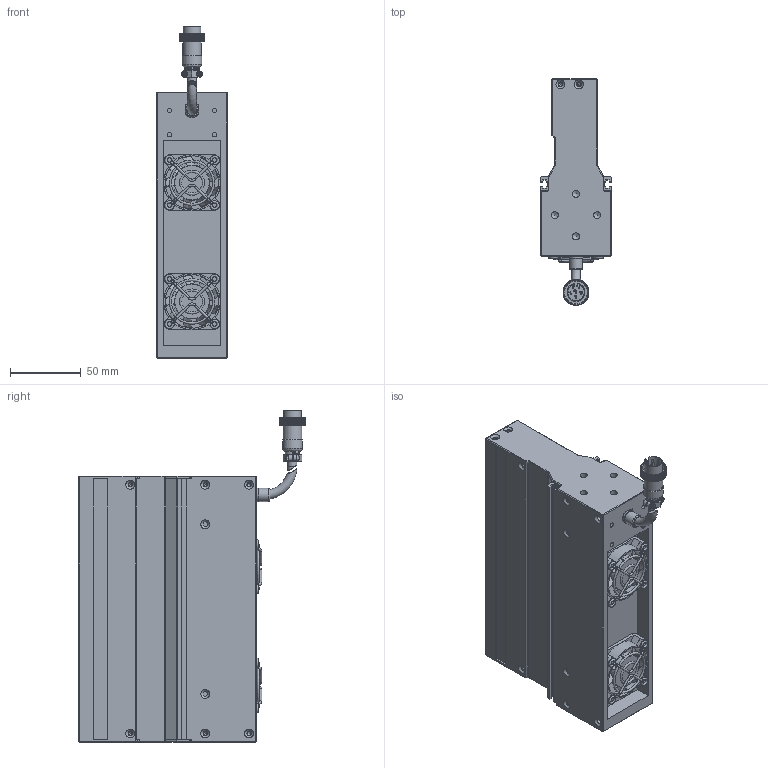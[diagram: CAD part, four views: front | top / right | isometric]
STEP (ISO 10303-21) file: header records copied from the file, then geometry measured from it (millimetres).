
FILE_DESCRIPTION (( 'STEP AP203' ), '1' );
FILE_NAME ('OPT-LSSC188-W-V3.1尨砩芞.STEP', '2025-02-05T01:16:05', ( 'USER' ), ( '' ), 'SwSTEP 2.0', 'SolidWorks 2016', '' );
FILE_SCHEMA (( 'CONFIG_CONTROL_DESIGN' ));
Length unit declared in the file: millimetre
Products named in the file (2): OPT-LSSC188-W-V3.1尨砩芞
Bounding box: 50 x 160.35 x 234.78 mm (x, y, z)
Volume: 752233.3 mm3; surface area: 149988.9 mm2
Topology: 13 solids, 17 shells, 3762 faces, 8344 edges, 4696 vertices
Faces by surface type: bspline 2113, cylinder 759, plane 749, torus 82, cone 59
Full cylindrical faces by diameter (mm): 0.95 x6, 1.6 x8, 2 x6, 2.5 x16, 3.2 x12, 3.4 x20, 5 x8, 6.2 x8, 6.4 x3, 7.5 x1, 8.6 x1, 9.3 x1, 9.8 x1, 10 x1, 13.2 x1, 14 x1, 16.1 x1, 24.8 x2, 38 x2
Entity records: 126689 total; most frequent: CARTESIAN_POINT 63560, ORIENTED_EDGE 16142, EDGE_CURVE 8071, DIRECTION 6400, B_SPLINE_CURVE_WITH_KNOTS 5590, VERTEX_POINT 4627, EDGE_LOOP 4064, FACE_OUTER_BOUND 3905
